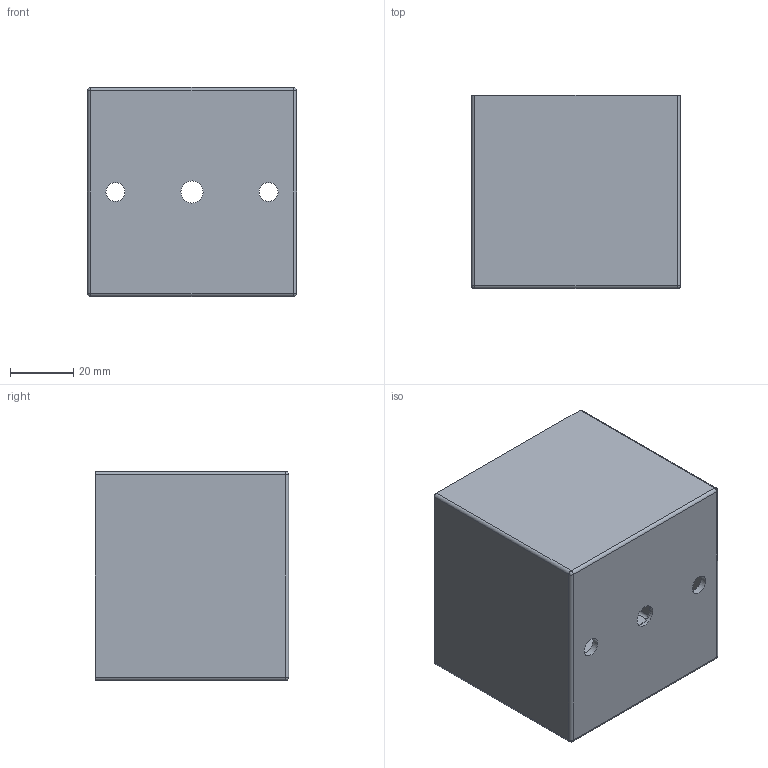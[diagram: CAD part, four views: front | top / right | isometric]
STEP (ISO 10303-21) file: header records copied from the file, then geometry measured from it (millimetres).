
FILE_DESCRIPTION(('STEP AP203'), '1');
FILE_NAME('up cup', '', ('UNSPECIFIED'), ('UNSPECIFIED'), 'ASCON STEP Converter 1.3', 'ASCON Math Kernel', '');
FILE_SCHEMA(('CONFIG_CONTROL_DESIGN'));
Length unit declared in the file: millimetre
Bounding box: 66 x 61 x 66 mm (x, y, z)
Volume: 23853.5 mm3; surface area: 39410 mm2
Topology: 1 solids, 1 shells, 39 faces, 91 edges, 47 vertices
Faces by surface type: cylinder 19, plane 11, sphere 8, torus 1
Full cylindrical faces by diameter (mm): 6 x2, 7 x1
Entity records: 1384 total; most frequent: DIRECTION 198, CARTESIAN_POINT 166, ORIENTED_EDGE 158, AXIS2_PLACEMENT_3D 79, EDGE_CURVE 79, EDGE_LOOP 50, VERTEX_POINT 47, FACE_BOUND 42
